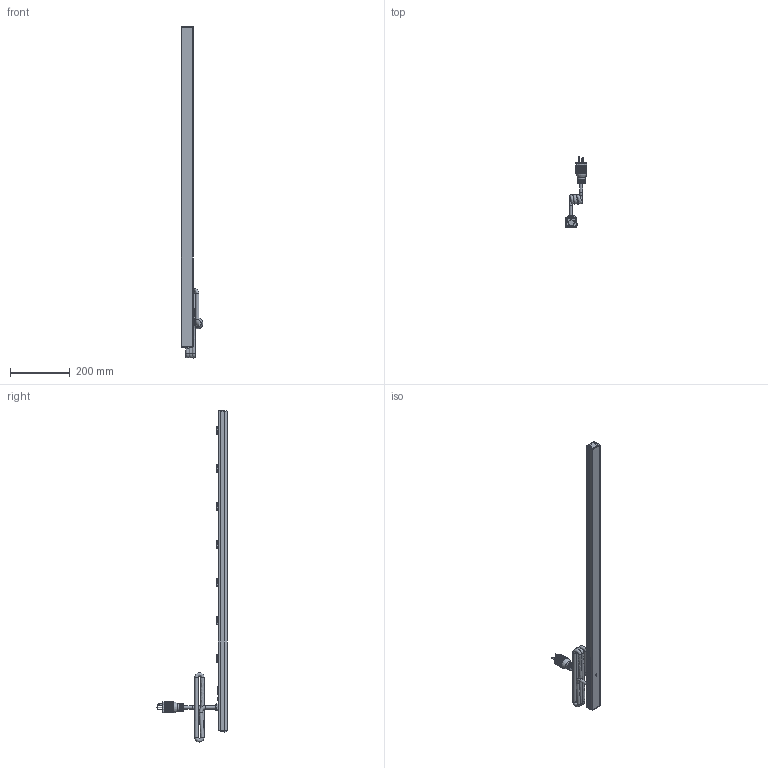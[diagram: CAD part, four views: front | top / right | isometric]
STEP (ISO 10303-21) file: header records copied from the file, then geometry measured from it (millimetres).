
FILE_DESCRIPTION((''),'2;1');
FILE_NAME('E:\Dutton\Manufacturing\drawings\Updated 2009\Vertical Rack Mount Strips\1589 Series\STEP''s\1589T42F1.stp','2010-01-21T08:38:42',('tfoster'),(''),'Autodesk Inventor 2010','Autodesk Inventor 2010','');
FILE_SCHEMA(('AUTOMOTIVE_DESIGN { 1 0 10303 214 1 1 1 1 }'));
Products named in the file (12): 1589T42F1; 42' - 7 Outlet top; 42' bottom; End Cap; End Cap w breaker; Reset Switch; #6 - 0.375 Type A screw; 20 amp Cored; toothwasher; round head 1-way 8-32 x 0.5 screw; 20 Amp Receptacle; Pilot light
Assembly tree (18 placements, depth 2):
  1589T42F1
    End Cap
    End Cap w breaker
    Reset Switch
    #6 - 0.375 Type A screw  x4
    20 amp Cored
    toothwasher
    round head 1-way 8-32 x 0.5 screw
    20 Amp Receptacle  x7
    Pilot light
  42' - 7 Outlet top
  42' bottom
Bounding box: 72.44 x 234.82 x 1111.14 mm (x, y, z)
Volume: 535883.6 mm3; surface area: 439120.9 mm2
Topology: 20 solids, 20 shells, 1216 faces, 3453 edges, 2273 vertices
Faces by surface type: plane 784, cylinder 261, bspline 97, sphere 34, cone 24, torus 16
Full cylindrical faces by diameter (mm): 1.803 x3, 1.905 x2, 3.175 x12, 3.2 x2, 4.3 x1, 4.826 x2, 7.849 x1, 11 x4, 12.5 x1, 19.05 x2, 22.606 x2, 25.146 x3
Entity records: 28831 total; most frequent: CARTESIAN_POINT 8831, ORIENTED_EDGE 4254, DIRECTION 3830, EDGE_CURVE 2127, VERTEX_POINT 1455, VECTOR 1300, LINE 1300, AXIS2_PLACEMENT_3D 1265
